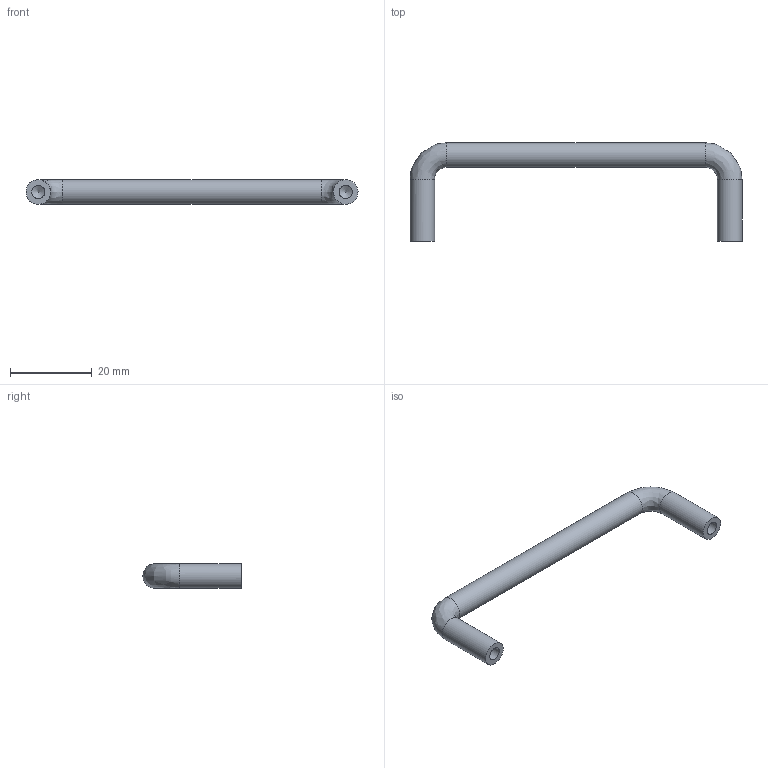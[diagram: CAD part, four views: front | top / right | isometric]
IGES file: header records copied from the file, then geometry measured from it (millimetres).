
Global section: file name: DR_A-GS6-75; native system: Autodesk Inventor 2015; preprocessor: unknown; author: CH.J; date: 20170712.102757; units: millimetre
Bounding box: 80.99 x 23.99 x 6 mm (x, y, z)
Volume: 3140.9 mm3; surface area: 2314.1 mm2
Topology: 1 solids, 1 shells, 11 faces, 25 edges, 16 vertices
Faces by surface type: bspline 11
